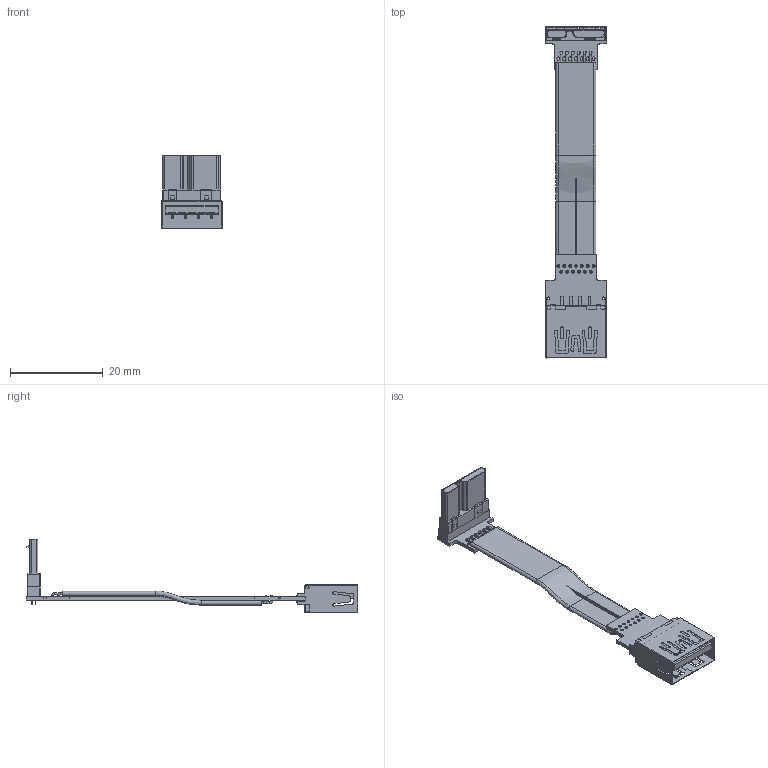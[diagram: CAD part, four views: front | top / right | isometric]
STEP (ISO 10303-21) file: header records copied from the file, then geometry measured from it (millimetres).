
FILE_DESCRIPTION(('Open CASCADE Model'),'2;1');
FILE_NAME('Open CASCADE Shape Model','2022-04-17T17:21:58',('Author'),( 'Open CASCADE'),'Open CASCADE STEP processor 6.8','Open CASCADE 6.8' ,'Unknown');
FILE_SCHEMA(('AUTOMOTIVE_DESIGN { 1 0 10303 214 1 1 1 1 }'));
Length unit declared in the file: millimetre
Products named in the file (53): PCB; Board; Open CASCADE STEP translator 6.8 9.1.1; _1; USB_傻遴20211224(5); Designator22; micro_usb_3.0; Free-Models; cable13-US1A
Assembly tree (52 placements, depth 3):
  PCB
    Board
      Open CASCADE STEP translator 6.8 9.1.1
    _1
      USB_傻遴20211224(5)
      USB_傻遴20211224(5)
      USB_傻遴20211224(5)
      USB_傻遴20211224(5)
      USB_傻遴20211224(5)
      USB_傻遴20211224(5)
      USB_傻遴20211224(5)
      USB_傻遴20211224(5)
      USB_傻遴20211224(5)
      USB_傻遴20211224(5)
      USB_傻遴20211224(5)
      USB_傻遴20211224(5)
      USB_傻遴20211224(5)
      USB_傻遴20211224(5)
      USB_傻遴20211224(5)
      USB_傻遴20211224(5)
      USB_傻遴20211224(5)
      USB_傻遴20211224(5)
      USB_傻遴20211224(5)
    Designator22
      micro_usb_3.0
    Free-Models
      cable13-US1A
      cable13-US1A
      cable13-US1A
      cable13-US1A
      cable13-US1A
      cable13-US1A
      cable13-US1A
      cable13-US1A
      cable13-US1A
      cable13-US1A
      cable13-US1A
      cable13-US1A
      cable13-US1A
      cable13-US1A
      cable13-US1A
      cable13-US1A
      cable13-US1A
      cable13-US1A
      cable13-US1A
      cable13-US1A
      cable13-US1A
      cable13-US1A
      cable13-US1A
      cable13-US1A
      cable13-US1A
      cable13-US1A
      cable13-US1A
Bounding box: 13.25 x 71.6 x 15.86 mm (x, y, z)
Volume: 1203.5 mm3; surface area: 3928 mm2
Topology: 48 solids, 48 shells, 1014 faces, 2594 edges, 1699 vertices
Faces by surface type: plane 608, cylinder 341, bspline 33, torus 26, extrusion 6
Full cylindrical faces by diameter (mm): 0.4 x59, 0.45 x10, 0.58 x13, 0.6 x13
Entity records: 41510 total; most frequent: CARTESIAN_POINT 6985, DIRECTION 5267, ORIENTED_EDGE 5188, EDGE_CURVE 2594, AXIS2_PLACEMENT_3D 1758, VECTOR 1751, LINE 1745, VERTEX_POINT 1699
